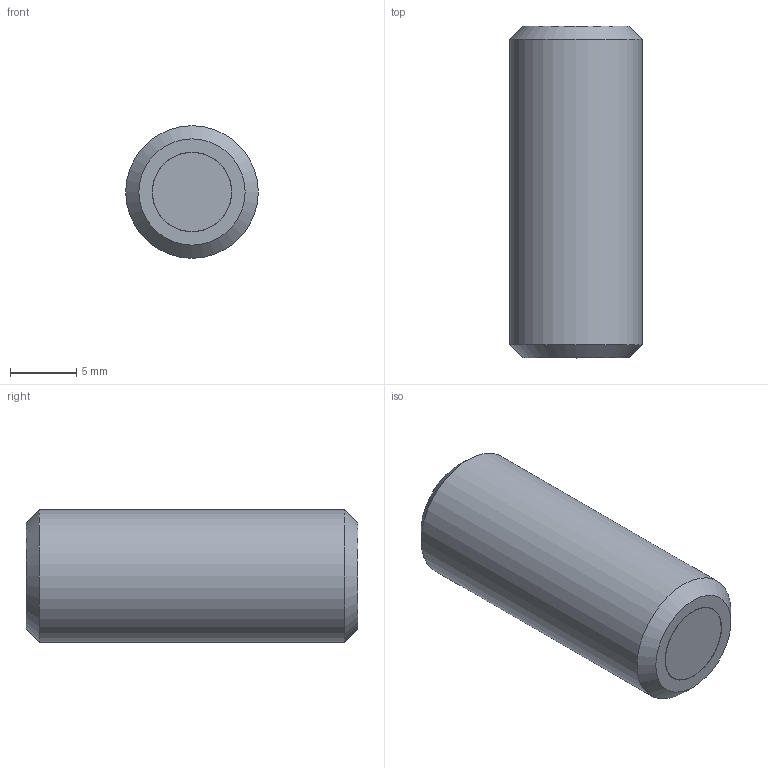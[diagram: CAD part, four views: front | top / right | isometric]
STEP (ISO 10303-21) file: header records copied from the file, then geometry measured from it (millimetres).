
FILE_DESCRIPTION(/* description */ ('STEP AP214'),/* implementation_level */ '2;1');
FILE_NAME(/* name */ 'Grub screw with retaining magnet GN 913.6-M10-25-ND',/* time_stamp */ '2023-10-03T11:26:54+02:00',/* author */ ('License CC BY-ND 4.0'),/* organization */ ('CADENAS'),/* preprocessor_version */ 'ST-DEVELOPER v19.3',/* originating_system */ 'PARTsolutions',/* authorisation */ ' ');
FILE_SCHEMA (('AUTOMOTIVE_DESIGN {1 0 10303 214 3 1 1}'));
Length unit declared in the file: millimetre
Products named in the file (1): Grub screw with retaining magnet GN 913.6-M10-25-ND
Bounding box: 10 x 25 x 10 mm (x, y, z)
Volume: 1821.2 mm3; surface area: 989.7 mm2
Topology: 1 solids, 1 shells, 22 faces, 46 edges, 28 vertices
Faces by surface type: plane 16, cone 3, cylinder 3
Full cylindrical faces by diameter (mm): 5.96 x1, 6 x1, 10 x1
Entity records: 566 total; most frequent: DIRECTION 98, CARTESIAN_POINT 88, ORIENTED_EDGE 76, EDGE_CURVE 38, AXIS2_PLACEMENT_3D 37, FACE_BOUND 31, EDGE_LOOP 30, VERTEX_POINT 27
